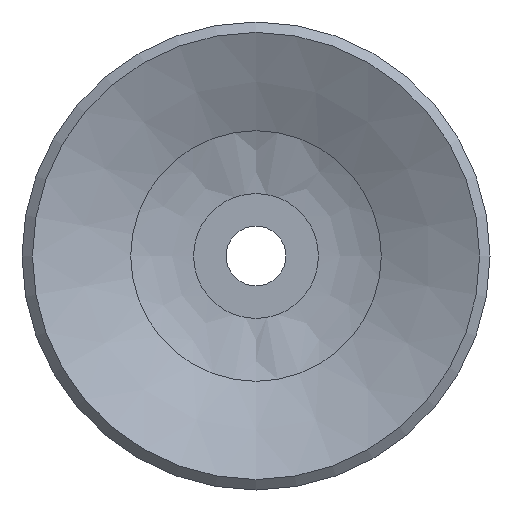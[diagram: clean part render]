
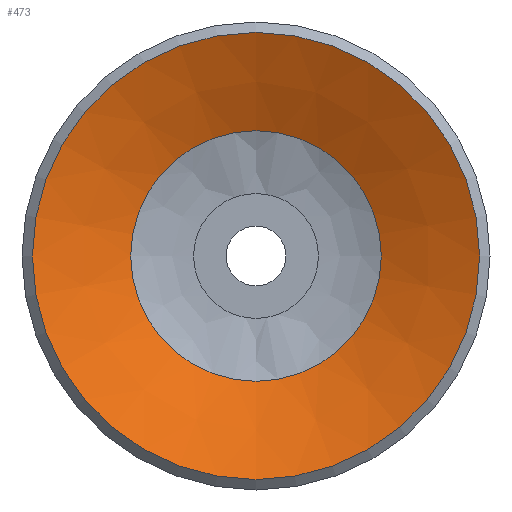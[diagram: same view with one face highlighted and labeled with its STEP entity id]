
A CAD part, front view. The second image highlights one B-rep face of the part: STEP entity #473.
In plain terms, the highlighted conical face has half-angle 65.056 degrees and reference radius 3.2 mm.
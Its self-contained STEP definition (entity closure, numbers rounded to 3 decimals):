
#473=ADVANCED_FACE('',(#677,#678),#679,.F.);
#677=FACE_BOUND('',#908,.T.);
#678=FACE_OUTER_BOUND('',#909,.T.);
#679=CONICAL_SURFACE('',#910,3.2,1.135);
#908=EDGE_LOOP('',(#1474));
#909=EDGE_LOOP('',(#1475));
#910=AXIS2_PLACEMENT_3D('',#1476,#1477,#1478);
#1474=ORIENTED_EDGE('',*,*,#1676,.T.);
#1475=ORIENTED_EDGE('',*,*,#1677,.T.);
#1476=CARTESIAN_POINT('',(0.0,7.896,0.0));
#1477=DIRECTION('',(-0.0,-1.0,0.));
#1478=DIRECTION('',(0.0,0.,-1.0));
#1676=EDGE_CURVE('',#1916,#1916,#1917,.T.);
#1677=EDGE_CURVE('',#1918,#1918,#1919,.T.);
#1916=VERTEX_POINT('',#2476);
#1917=CIRCLE('',#2477,4.203);
#1918=VERTEX_POINT('',#2478);
#1919=CIRCLE('',#2479,7.5);
#2476=CARTESIAN_POINT('',(0.0,7.43,-4.203));
#2477=AXIS2_PLACEMENT_3D('',#2713,#2714,#2715);
#2478=CARTESIAN_POINT('',(0.0,5.896,-7.5));
#2479=AXIS2_PLACEMENT_3D('',#2716,#2717,#2718);
#2713=CARTESIAN_POINT('',(0.0,7.43,0.0));
#2714=DIRECTION('',(0.0,1.0,0.));
#2715=DIRECTION('',(0.0,0.,-1.0));
#2716=CARTESIAN_POINT('',(0.0,5.896,0.0));
#2717=DIRECTION('',(0.0,-1.0,0.));
#2718=DIRECTION('',(0.0,0.,-1.0));
